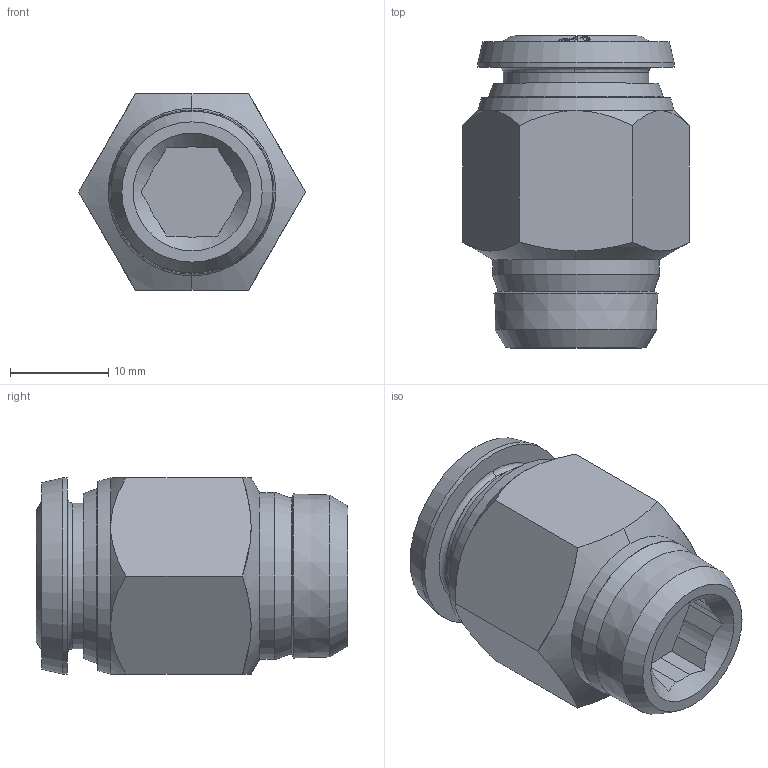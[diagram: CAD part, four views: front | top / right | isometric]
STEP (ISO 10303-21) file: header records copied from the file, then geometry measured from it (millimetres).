
FILE_DESCRIPTION(/* description */ (''),/* implementation_level */ '2;1');
FILE_NAME(/* name */ 'K:\praktykant1\Tomasz Zadworny\Aignep\57000 12 38\57000 12 38.stp',/* time_stamp */ '2014-07-03T08:44:58+02:00',/* author */ ('Dariusz Nowakowski'),/* organization */ (''),/* preprocessor_version */ 'ST-DEVELOPER v15.6',/* originating_system */ 'Autodesk Inventor 2015',/* authorisation */ '');
FILE_SCHEMA (('AUTOMOTIVE_DESIGN { 1 0 10303 214 3 1 1 }'));
Length unit declared in the file: millimetre
Products named in the file (1): 57000 12 38
Bounding box: 23.09 x 31.8 x 20.01 mm (x, y, z)
Surface area: 4074.8 mm2 (no closed solid volume)
Topology: 0 solids, 138 shells, 138 faces, 674 edges, 649 vertices
Faces by surface type: bspline 58, cone 32, plane 31, cylinder 17
Full cylindrical faces by diameter (mm): 12.2 x1, 14.85 x1, 15.1 x1, 15.3 x1, 15.6 x1, 16.6 x1, 17 x1, 18.2 x1, 18.3 x1, 20 x1
Entity records: 12505 total; most frequent: CARTESIAN_POINT 7667, DIRECTION 740, VERTEX_POINT 636, EDGE_CURVE 636, ORIENTED_EDGE 636, AXIS2_PLACEMENT_3D 262, B_SPLINE_CURVE_WITH_KNOTS 239, LINE 216
